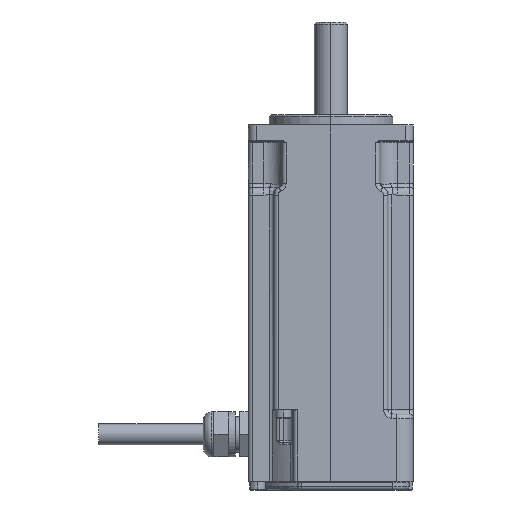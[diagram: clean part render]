
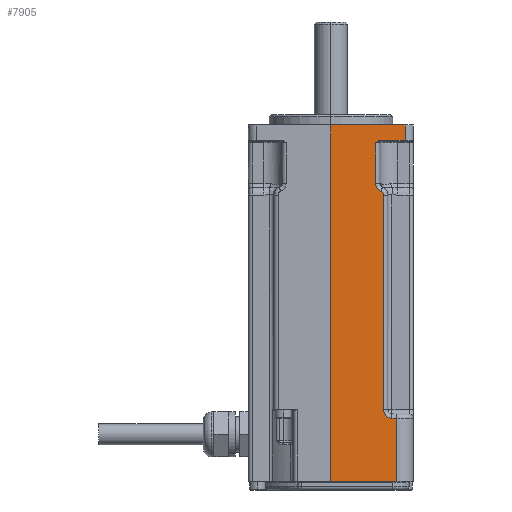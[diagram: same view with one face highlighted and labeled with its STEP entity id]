
A CAD part, left-side view. The second image highlights one B-rep face of the part: STEP entity #7905.
In plain terms, the highlighted planar face has unit normal (-1, -0.009, 0).
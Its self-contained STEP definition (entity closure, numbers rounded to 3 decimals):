
#7658 = VERTEX_POINT ( 'NONE', #17456 ) ;
#7660 = EDGE_CURVE ( 'NONE', #7661, #7658, #17455, .T. ) ;
#7661 = VERTEX_POINT ( 'NONE', #17451 ) ;
#7741 = EDGE_CURVE ( 'NONE', #7772, #7774, #17829, .T. ) ;
#7772 = VERTEX_POINT ( 'NONE', #17805 ) ;
#7774 = VERTEX_POINT ( 'NONE', #17756 ) ;
#7814 = ORIENTED_EDGE ( 'NONE', *, *, #7926, .T. ) ;
#7879 = ORIENTED_EDGE ( 'NONE', *, *, #7886, .T. ) ;
#7885 = VERTEX_POINT ( 'NONE', #18052 ) ;
#7886 = EDGE_CURVE ( 'NONE', #7774, #8010, #17995, .T. ) ;
#7888 = EDGE_LOOP ( 'NONE', ( #7907, #7814, #7930, #7894, #7899, #8025, #7879, #8050, #8040, #8038, #8023, #8034, #7995 ) ) ;
#7891 = EDGE_CURVE ( 'NONE', #7892, #7927, #17981, .T. ) ;
#7892 = VERTEX_POINT ( 'NONE', #17977 ) ;
#7894 = ORIENTED_EDGE ( 'NONE', *, *, #7895, .T. ) ;
#7895 = EDGE_CURVE ( 'NONE', #7892, #7896, #17976, .T. ) ;
#7896 = VERTEX_POINT ( 'NONE', #17972 ) ;
#7899 = ORIENTED_EDGE ( 'NONE', *, *, #8039, .T. ) ;
#7905 = ADVANCED_FACE ( 'NONE', ( #17954 ), #18236, .T. ) ;
#7907 = ORIENTED_EDGE ( 'NONE', *, *, #7660, .T. ) ;
#7926 = EDGE_CURVE ( 'NONE', #7658, #7927, #18138, .T. ) ;
#7927 = VERTEX_POINT ( 'NONE', #18134 ) ;
#7930 = ORIENTED_EDGE ( 'NONE', *, *, #7891, .F. ) ;
#7995 = ORIENTED_EDGE ( 'NONE', *, *, #7996, .F. ) ;
#7996 = EDGE_CURVE ( 'NONE', #7661, #8036, #18406, .T. ) ;
#8010 = VERTEX_POINT ( 'NONE', #18345 ) ;
#8023 = ORIENTED_EDGE ( 'NONE', *, *, #8024, .T. ) ;
#8024 = EDGE_CURVE ( 'NONE', #8083, #8084, #18518, .T. ) ;
#8025 = ORIENTED_EDGE ( 'NONE', *, *, #7741, .T. ) ;
#8034 = ORIENTED_EDGE ( 'NONE', *, *, #8035, .T. ) ;
#8035 = EDGE_CURVE ( 'NONE', #8084, #8036, #18428, .T. ) ;
#8036 = VERTEX_POINT ( 'NONE', #18424 ) ;
#8037 = EDGE_CURVE ( 'NONE', #7885, #8042, #18423, .T. ) ;
#8038 = ORIENTED_EDGE ( 'NONE', *, *, #8082, .T. ) ;
#8039 = EDGE_CURVE ( 'NONE', #7896, #7772, #18418, .T. ) ;
#8040 = ORIENTED_EDGE ( 'NONE', *, *, #8037, .T. ) ;
#8042 = VERTEX_POINT ( 'NONE', #18419 ) ;
#8050 = ORIENTED_EDGE ( 'NONE', *, *, #8051, .T. ) ;
#8051 = EDGE_CURVE ( 'NONE', #8010, #7885, #18443, .T. ) ;
#8082 = EDGE_CURVE ( 'NONE', #8042, #8083, #18630, .T. ) ;
#8083 = VERTEX_POINT ( 'NONE', #18629 ) ;
#8084 = VERTEX_POINT ( 'NONE', #18628 ) ;
#17451 = CARTESIAN_POINT ( 'NONE',  ( -20., 0., -0.8 ) ) ;
#17452 = DIRECTION ( 'NONE',  ( 0., 0., -1. ) ) ;
#17453 = VECTOR ( 'NONE', #17452, 1000. ) ;
#17454 = CARTESIAN_POINT ( 'NONE',  ( -20., 0., -4.8 ) ) ;
#17455 = LINE ( 'NONE', #17454, #17453 ) ;
#17456 = CARTESIAN_POINT ( 'NONE',  ( -20., 0., -87.3 ) ) ;
#17756 = CARTESIAN_POINT ( 'NONE',  ( -19.888, -12.823, -17.799 ) ) ;
#17805 = CARTESIAN_POINT ( 'NONE',  ( -19.888, -12.823, -69.955 ) ) ;
#17826 = DIRECTION ( 'NONE',  ( 0., 0., 1. ) ) ;
#17827 = VECTOR ( 'NONE', #17826, 1000. ) ;
#17828 = CARTESIAN_POINT ( 'NONE',  ( -19.888, -12.823, -17.799 ) ) ;
#17829 = LINE ( 'NONE', #17828, #17827 ) ;
#17954 = FACE_OUTER_BOUND ( 'NONE', #7888, .T. ) ;
#17972 = CARTESIAN_POINT ( 'NONE',  ( -19.871, -14.823, -71.955 ) ) ;
#17973 = DIRECTION ( 'NONE',  ( -0.009, 1., 0. ) ) ;
#17974 = VECTOR ( 'NONE', #17973, 1000. ) ;
#17975 = CARTESIAN_POINT ( 'NONE',  ( -19.888, -12.823, -71.955 ) ) ;
#17976 = LINE ( 'NONE', #17975, #17974 ) ;
#17977 = CARTESIAN_POINT ( 'NONE',  ( -19.86, -16.035, -71.955 ) ) ;
#17978 = DIRECTION ( 'NONE',  ( 0., 0., -1. ) ) ;
#17979 = VECTOR ( 'NONE', #17978, 1000. ) ;
#17980 = CARTESIAN_POINT ( 'NONE',  ( -19.86, -16.035, -70.955 ) ) ;
#17981 = LINE ( 'NONE', #17980, #17979 ) ;
#17991 = CARTESIAN_POINT ( 'NONE',  ( -19.894, -12.173, -16.863 ) ) ;
#17992 = CARTESIAN_POINT ( 'NONE',  ( -19.89, -12.577, -17.014 ) ) ;
#17993 = CARTESIAN_POINT ( 'NONE',  ( -19.888, -12.823, -17.368 ) ) ;
#17994 = CARTESIAN_POINT ( 'NONE',  ( -19.888, -12.823, -17.799 ) ) ;
#17995 =( BOUNDED_CURVE ( )  B_SPLINE_CURVE ( 3, ( #17994, #17993, #17992, #17991 ),
 .UNSPECIFIED., .F., .T. ) 
 B_SPLINE_CURVE_WITH_KNOTS ( ( 4, 4 ),
 ( 3.142, 4.354 ),
 .UNSPECIFIED. ) 
 CURVE ( )  GEOMETRIC_REPRESENTATION_ITEM ( )  RATIONAL_B_SPLINE_CURVE ( ( 1., 0.881, 0.881, 1. ) ) 
 REPRESENTATION_ITEM ( '' )  );
#18052 = CARTESIAN_POINT ( 'NONE',  ( -19.905, -10.874, -14.99 ) ) ;
#18134 = CARTESIAN_POINT ( 'NONE',  ( -19.86, -16.035, -87.3 ) ) ;
#18135 = DIRECTION ( 'NONE',  ( 0.009, -1., 0. ) ) ;
#18136 = VECTOR ( 'NONE', #18135, 1000. ) ;
#18137 = CARTESIAN_POINT ( 'NONE',  ( -19.86, -16.035, -87.3 ) ) ;
#18138 = LINE ( 'NONE', #18137, #18136 ) ;
#18174 = DIRECTION ( 'NONE',  ( 0.009, -1., 0. ) ) ;
#18175 = DIRECTION ( 'NONE',  ( -1., -0.009, 0. ) ) ;
#18234 = CARTESIAN_POINT ( 'NONE',  ( -20., 0., -4.8 ) ) ;
#18235 = AXIS2_PLACEMENT_3D ( 'NONE', #18234, #18175, #18174 ) ;
#18236 = PLANE ( 'NONE',  #18235 ) ;
#18345 = CARTESIAN_POINT ( 'NONE',  ( -19.894, -12.173, -16.863 ) ) ;
#18403 = DIRECTION ( 'NONE',  ( 0.009, -1., 0. ) ) ;
#18404 = VECTOR ( 'NONE', #18403, 1000. ) ;
#18405 = CARTESIAN_POINT ( 'NONE',  ( -20., 0., -0.8 ) ) ;
#18406 = LINE ( 'NONE', #18405, #18404 ) ;
#18418 =( BOUNDED_CURVE ( )  B_SPLINE_CURVE ( 3, ( #18460, #18459, #18458, #18457 ),
 .UNSPECIFIED., .F., .T. ) 
 B_SPLINE_CURVE_WITH_KNOTS ( ( 4, 4 ),
 ( 4.712, 6.283 ),
 .UNSPECIFIED. ) 
 CURVE ( )  GEOMETRIC_REPRESENTATION_ITEM ( )  RATIONAL_B_SPLINE_CURVE ( ( 1., 0.805, 0.805, 1. ) ) 
 REPRESENTATION_ITEM ( '' )  );
#18419 = CARTESIAN_POINT ( 'NONE',  ( -19.905, -10.874, -5.13 ) ) ;
#18420 = DIRECTION ( 'NONE',  ( 0., 0., 1. ) ) ;
#18421 = VECTOR ( 'NONE', #18420, 1000. ) ;
#18422 = CARTESIAN_POINT ( 'NONE',  ( -19.905, -10.874, -4.8 ) ) ;
#18423 = LINE ( 'NONE', #18422, #18421 ) ;
#18424 = CARTESIAN_POINT ( 'NONE',  ( -19.843, -18.017, -0.8 ) ) ;
#18425 = DIRECTION ( 'NONE',  ( 0., 0., 1. ) ) ;
#18426 = VECTOR ( 'NONE', #18425, 1000. ) ;
#18427 = CARTESIAN_POINT ( 'NONE',  ( -19.843, -18.017, -4.8 ) ) ;
#18428 = LINE ( 'NONE', #18427, #18426 ) ;
#18443 =( BOUNDED_CURVE ( )  B_SPLINE_CURVE ( 3, ( #18531, #18587, #18530, #18529 ),
 .UNSPECIFIED., .F., .T. ) 
 B_SPLINE_CURVE_WITH_KNOTS ( ( 4, 4 ),
 ( 5.07, 6.283 ),
 .UNSPECIFIED. ) 
 CURVE ( )  GEOMETRIC_REPRESENTATION_ITEM ( )  RATIONAL_B_SPLINE_CURVE ( ( 1., 0.881, 0.881, 1. ) ) 
 REPRESENTATION_ITEM ( '' )  );
#18457 = CARTESIAN_POINT ( 'NONE',  ( -19.888, -12.823, -69.955 ) ) ;
#18458 = CARTESIAN_POINT ( 'NONE',  ( -19.888, -12.823, -71.127 ) ) ;
#18459 = CARTESIAN_POINT ( 'NONE',  ( -19.881, -13.651, -71.955 ) ) ;
#18460 = CARTESIAN_POINT ( 'NONE',  ( -19.871, -14.823, -71.955 ) ) ;
#18515 = DIRECTION ( 'NONE',  ( 0.009, -1., 0.009 ) ) ;
#18516 = VECTOR ( 'NONE', #18515, 1000. ) ;
#18517 = CARTESIAN_POINT ( 'NONE',  ( -19.843, -18.015, -4.567 ) ) ;
#18518 = LINE ( 'NONE', #18517, #18516 ) ;
#18529 = CARTESIAN_POINT ( 'NONE',  ( -19.905, -10.874, -14.99 ) ) ;
#18530 = CARTESIAN_POINT ( 'NONE',  ( -19.905, -10.874, -15.852 ) ) ;
#18531 = CARTESIAN_POINT ( 'NONE',  ( -19.894, -12.173, -16.863 ) ) ;
#18587 = CARTESIAN_POINT ( 'NONE',  ( -19.901, -11.365, -16.561 ) ) ;
#18619 = CARTESIAN_POINT ( 'NONE',  ( -19.896, -11.869, -4.621 ) ) ;
#18620 = CARTESIAN_POINT ( 'NONE',  ( -19.898, -11.677, -4.623 ) ) ;
#18621 = CARTESIAN_POINT ( 'NONE',  ( -19.9, -11.495, -4.693 ) ) ;
#18622 = CARTESIAN_POINT ( 'NONE',  ( -19.903, -11.168, -4.885 ) ) ;
#18623 = CARTESIAN_POINT ( 'NONE',  ( -19.904, -11.02, -5.008 ) ) ;
#18624 = CARTESIAN_POINT ( 'NONE',  ( -19.905, -10.874, -5.13 ) ) ;
#18628 = CARTESIAN_POINT ( 'NONE',  ( -19.843, -18.017, -4.567 ) ) ;
#18629 = CARTESIAN_POINT ( 'NONE',  ( -19.896, -11.869, -4.621 ) ) ;
#18630 = B_SPLINE_CURVE_WITH_KNOTS ( 'NONE', 3,
 ( #18624, #18623, #18622, #18621, #18620, #18619 ),
 .UNSPECIFIED., .F., .F.,
 ( 4, 2, 4 ),
 ( 0., 0.001, 0.001 ),
 .UNSPECIFIED. ) ;
